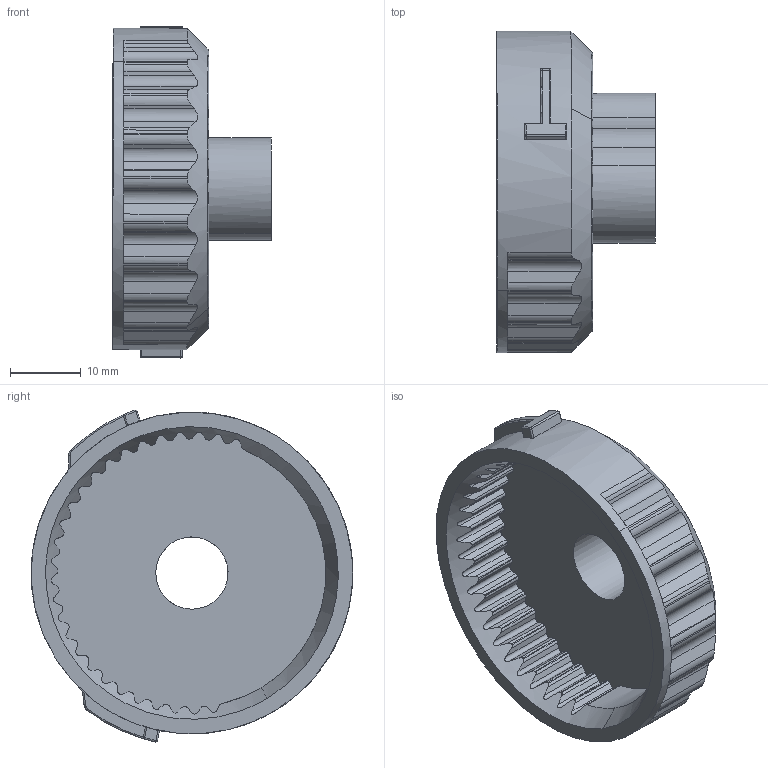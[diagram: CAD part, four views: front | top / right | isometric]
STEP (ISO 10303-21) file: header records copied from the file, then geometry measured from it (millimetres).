
FILE_DESCRIPTION(('CATIA V5 STEP Exchange'),'2;1');
FILE_NAME('F:\11-X3000\2.0平台提升\2.0外观提升\0807\1217更改方案\1220手工样件订单\SHT0012972-样件.stp','2020-12-21T06:40:19+00:00',('none'),('none'),'CATIA Version 5 Release 20 GA (IN-10)','CATIA V5 STEP AP203 Edition 2','none');
FILE_SCHEMA(('AP203_CONFIGURATION_CONTROLLED_3D_DESIGN_OF_MECHANICAL_PARTS_AND_ASSEMBLIES_MIM_LF { 1 0 10303 403 2 1 2}'));
Length unit declared in the file: millimetre
Products named in the file (1): liba288C569Eo28z
Bounding box: 22.36 x 45.37 x 46.84 mm (x, y, z)
Volume: 10042.7 mm3; surface area: 7219.8 mm2
Topology: 1 solids, 1 shells, 324 faces, 930 edges, 604 vertices
Faces by surface type: cylinder 193, plane 101, torus 15, sphere 11, cone 4
Entity records: 11745 total; most frequent: CARTESIAN_POINT 4104, ORIENTED_EDGE 1846, DIRECTION 1164, EDGE_CURVE 923, VERTEX_POINT 604, AXIS2_PLACEMENT_3D 470, B_SPLINE_CURVE_WITH_KNOTS 405, VECTOR 372
